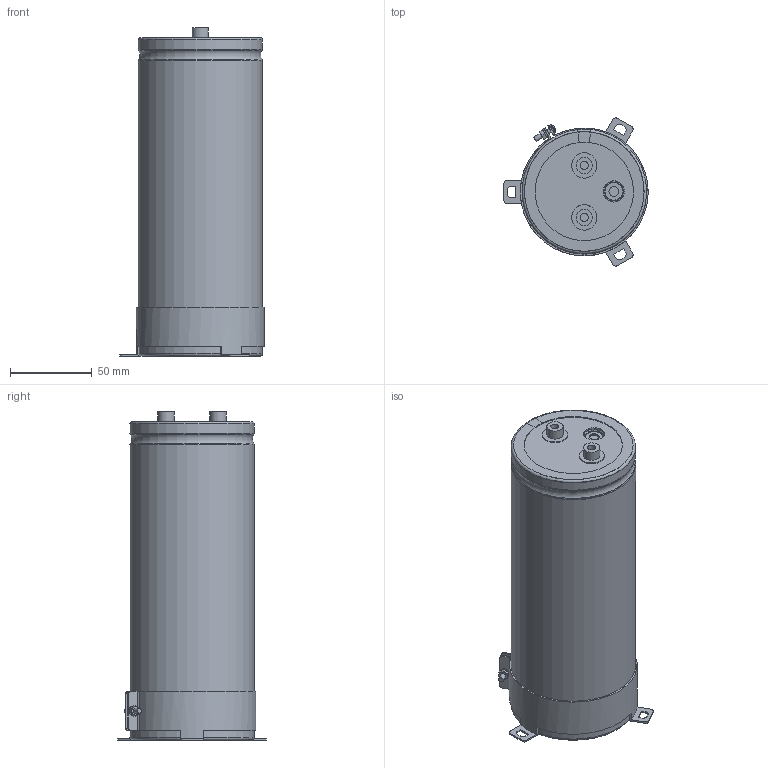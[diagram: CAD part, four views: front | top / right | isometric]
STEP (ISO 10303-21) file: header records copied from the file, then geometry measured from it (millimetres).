
FILE_DESCRIPTION(/* description */ (''),/* implementation_level */ '2;1');
FILE_NAME(/* name */ '76.2x195_Screw.stp',/* time_stamp */ '2017-09-17T13:40:04+09:00',/* author */ (''),/* organization */ (''),/* preprocessor_version */ 'ST-DEVELOPER v16',/* originating_system */ 'SIEMENS PLM Software NX 11.0',/* authorisation */ '');
FILE_SCHEMA (('AUTOMOTIVE_DESIGN { 1 0 10303 214 3 1 1 1 }'));
Length unit declared in the file: millimetre
Products named in the file (1): 76.2x195_Screw
Bounding box: 88.3 x 90.75 x 201 mm (x, y, z)
Volume: 891658.2 mm3; surface area: 169740.8 mm2
Topology: 9 solids, 9 shells, 259 faces, 642 edges, 413 vertices
Faces by surface type: plane 112, cylinder 66, torus 49, cone 31, sphere 1
Full cylindrical faces by diameter (mm): 3 x5, 5 x2, 5.5 x2, 6 x4, 8 x1, 10 x2, 13 x2, 15.5 x2, 75 x2
Entity records: 8534 total; most frequent: CARTESIAN_POINT 2182, DIRECTION 1296, ORIENTED_EDGE 1214, EDGE_CURVE 607, AXIS2_PLACEMENT_3D 541, VERTEX_POINT 408, EDGE_LOOP 317, CIRCLE 281
